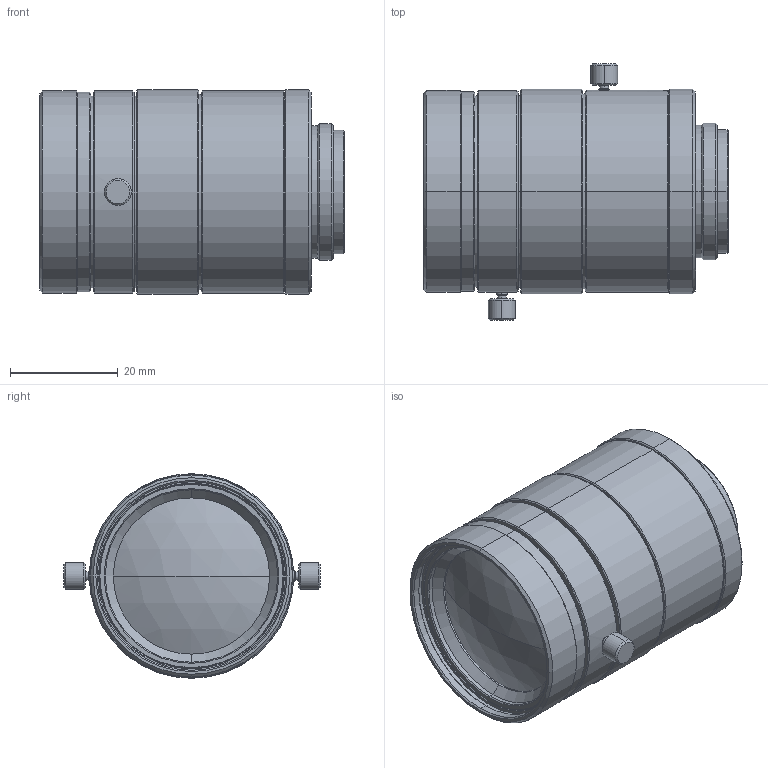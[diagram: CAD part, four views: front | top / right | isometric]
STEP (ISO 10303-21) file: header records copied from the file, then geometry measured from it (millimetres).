
FILE_DESCRIPTION (( 'STEP AP214' ), '1' );
FILE_NAME ('VS-1620HV.STEP', '2020-03-09T04:24:18', ( '' ), ( '' ), 'SwSTEP 2.0', 'SolidWorks 2018', '' );
FILE_SCHEMA (( 'AUTOMOTIVE_DESIGN' ));
Length unit declared in the file: millimetre
Products named in the file (1): VS-1620HV
Bounding box: 56.52 x 47.6 x 38 mm (x, y, z)
Volume: 54665.4 mm3; surface area: 10082.2 mm2
Topology: 1 solids, 1 shells, 130 faces, 262 edges, 154 vertices
Faces by surface type: cone 58, cylinder 48, plane 20, sphere 4
Entity records: 3472 total; most frequent: DIRECTION 672, CARTESIAN_POINT 611, ORIENTED_EDGE 524, AXIS2_PLACEMENT_3D 283, EDGE_CURVE 262, VERTEX_POINT 154, CIRCLE 152, EDGE_LOOP 150
